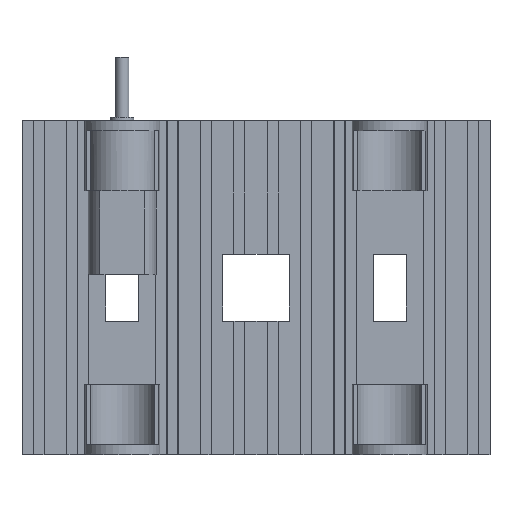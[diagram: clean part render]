
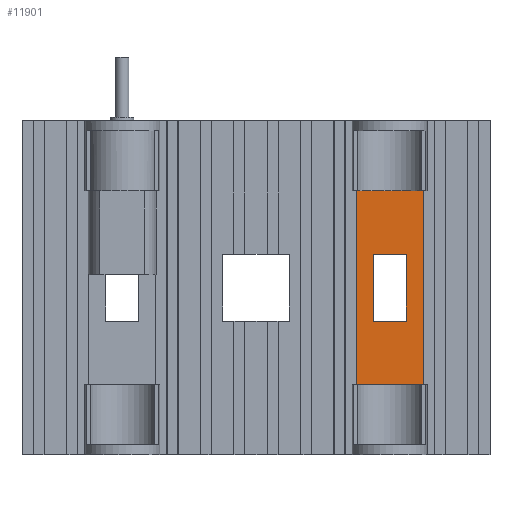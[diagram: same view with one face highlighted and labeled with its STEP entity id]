
A CAD part, front view. The second image highlights one B-rep face of the part: STEP entity #11901.
In plain terms, the highlighted planar face has unit normal (0, -1, 0).
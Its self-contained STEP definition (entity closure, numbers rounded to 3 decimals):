
#95=FACE_BOUND('',#1613,.T.);
#467=PLANE('',#12591);
#992=FACE_OUTER_BOUND('',#1612,.T.);
#1612=EDGE_LOOP('',(#10346,#10347,#10348,#10349,#10350,#10351,#10352,#10353,
#10354,#10355,#10356,#10357));
#1613=EDGE_LOOP('',(#10358,#10359,#10360,#10361));
#2805=LINE('',#17951,#4354);
#2850=LINE('',#18044,#4399);
#2853=LINE('',#18056,#4402);
#2854=LINE('',#18059,#4403);
#2871=LINE('',#18125,#4420);
#2885=LINE('',#18153,#4434);
#2889=LINE('',#18158,#4438);
#2941=LINE('',#18265,#4490);
#2965=LINE('',#18313,#4514);
#2966=LINE('',#18315,#4515);
#2967=LINE('',#18317,#4516);
#2968=LINE('',#18319,#4517);
#2969=LINE('',#18321,#4518);
#2970=LINE('',#18322,#4519);
#2971=LINE('',#18323,#4520);
#2972=LINE('',#18324,#4521);
#4354=VECTOR('',#14618,10.);
#4399=VECTOR('',#14695,10.);
#4402=VECTOR('',#14706,10.);
#4403=VECTOR('',#14709,10.);
#4420=VECTOR('',#14782,10.);
#4434=VECTOR('',#14798,10.);
#4438=VECTOR('',#14804,10.);
#4490=VECTOR('',#14902,10.);
#4514=VECTOR('',#14942,10.);
#4515=VECTOR('',#14943,10.);
#4516=VECTOR('',#14944,10.);
#4517=VECTOR('',#14945,10.);
#4518=VECTOR('',#14946,10.);
#4519=VECTOR('',#14947,10.);
#4520=VECTOR('',#14948,10.);
#4521=VECTOR('',#14949,10.);
#5846=VERTEX_POINT('',#17948);
#5847=VERTEX_POINT('',#17950);
#5878=VERTEX_POINT('',#18042);
#5879=VERTEX_POINT('',#18043);
#5884=VERTEX_POINT('',#18055);
#5885=VERTEX_POINT('',#18057);
#5906=VERTEX_POINT('',#18124);
#5919=VERTEX_POINT('',#18151);
#5950=VERTEX_POINT('',#18263);
#5951=VERTEX_POINT('',#18264);
#5966=VERTEX_POINT('',#18311);
#5967=VERTEX_POINT('',#18312);
#5968=VERTEX_POINT('',#18314);
#5969=VERTEX_POINT('',#18316);
#5970=VERTEX_POINT('',#18318);
#5971=VERTEX_POINT('',#18320);
#7329=EDGE_CURVE('',#5846,#5847,#2805,.T.);
#7374=EDGE_CURVE('',#5878,#5879,#2850,.T.);
#7380=EDGE_CURVE('',#5884,#5878,#2853,.T.);
#7382=EDGE_CURVE('',#5879,#5885,#2854,.T.);
#7415=EDGE_CURVE('',#5906,#5847,#2871,.T.);
#7429=EDGE_CURVE('',#5919,#5846,#2885,.T.);
#7433=EDGE_CURVE('',#5919,#5906,#2889,.T.);
#7485=EDGE_CURVE('',#5950,#5951,#2941,.T.);
#7509=EDGE_CURVE('',#5966,#5967,#2965,.T.);
#7510=EDGE_CURVE('',#5967,#5968,#2966,.T.);
#7511=EDGE_CURVE('',#5969,#5968,#2967,.T.);
#7512=EDGE_CURVE('',#5970,#5969,#2968,.T.);
#7513=EDGE_CURVE('',#5971,#5970,#2969,.T.);
#7514=EDGE_CURVE('',#5971,#5950,#2970,.T.);
#7515=EDGE_CURVE('',#5884,#5951,#2971,.T.);
#7516=EDGE_CURVE('',#5966,#5885,#2972,.T.);
#10346=ORIENTED_EDGE('',*,*,#7509,.T.);
#10347=ORIENTED_EDGE('',*,*,#7510,.T.);
#10348=ORIENTED_EDGE('',*,*,#7511,.F.);
#10349=ORIENTED_EDGE('',*,*,#7512,.F.);
#10350=ORIENTED_EDGE('',*,*,#7513,.F.);
#10351=ORIENTED_EDGE('',*,*,#7514,.T.);
#10352=ORIENTED_EDGE('',*,*,#7485,.T.);
#10353=ORIENTED_EDGE('',*,*,#7515,.F.);
#10354=ORIENTED_EDGE('',*,*,#7380,.T.);
#10355=ORIENTED_EDGE('',*,*,#7374,.T.);
#10356=ORIENTED_EDGE('',*,*,#7382,.T.);
#10357=ORIENTED_EDGE('',*,*,#7516,.F.);
#10358=ORIENTED_EDGE('',*,*,#7415,.T.);
#10359=ORIENTED_EDGE('',*,*,#7329,.F.);
#10360=ORIENTED_EDGE('',*,*,#7429,.F.);
#10361=ORIENTED_EDGE('',*,*,#7433,.T.);
#11901=ADVANCED_FACE('',(#992,#95),#467,.F.);
#12591=AXIS2_PLACEMENT_3D('',#18310,#14940,#14941);
#14618=DIRECTION('',(-1.,0.,0.));
#14695=DIRECTION('',(-1.,0.,0.));
#14706=DIRECTION('',(0.,0.,-1.));
#14709=DIRECTION('',(0.,0.,1.));
#14782=DIRECTION('',(0.,0.,1.));
#14798=DIRECTION('',(0.,0.,1.));
#14804=DIRECTION('',(-1.,0.,0.));
#14902=DIRECTION('',(0.,0.,1.));
#14940=DIRECTION('center_axis',(0.,1.,0.));
#14941=DIRECTION('ref_axis',(0.,0.,1.));
#14942=DIRECTION('',(0.,0.,-1.));
#14943=DIRECTION('',(1.,0.,0.));
#14944=DIRECTION('',(0.,0.,-1.));
#14945=DIRECTION('',(-1.,0.,0.));
#14946=DIRECTION('',(0.,0.,1.));
#14947=DIRECTION('',(1.,0.,0.));
#14948=DIRECTION('',(1.,0.,0.));
#14949=DIRECTION('',(1.,0.,0.));
#17948=CARTESIAN_POINT('',(85.,10.2,-24.));
#17950=CARTESIAN_POINT('',(75.,10.2,-24.));
#17951=CARTESIAN_POINT('',(77.5,10.2,-24.));
#18042=CARTESIAN_POINT('',(84.749,10.2,-5.));
#18043=CARTESIAN_POINT('',(75.251,10.2,-5.));
#18044=CARTESIAN_POINT('',(77.5,10.2,-5.));
#18055=CARTESIAN_POINT('',(84.749,10.2,16.));
#18056=CARTESIAN_POINT('',(84.749,10.2,14.));
#18057=CARTESIAN_POINT('',(75.251,10.2,16.));
#18059=CARTESIAN_POINT('',(75.251,10.2,14.));
#18124=CARTESIAN_POINT('',(75.,10.2,-44.));
#18125=CARTESIAN_POINT('',(75.,10.2,-46.5));
#18151=CARTESIAN_POINT('',(85.,10.2,-44.));
#18153=CARTESIAN_POINT('',(85.,10.2,-21.5));
#18158=CARTESIAN_POINT('',(77.5,10.2,-44.));
#18263=CARTESIAN_POINT('',(90.,10.2,-84.));
#18264=CARTESIAN_POINT('',(90.,10.2,16.));
#18265=CARTESIAN_POINT('',(90.,10.2,-59.));
#18310=CARTESIAN_POINT('Origin',(75.,10.2,-59.));
#18311=CARTESIAN_POINT('',(70.,10.2,16.));
#18312=CARTESIAN_POINT('',(70.,10.2,-84.));
#18313=CARTESIAN_POINT('',(70.,10.2,-59.));
#18314=CARTESIAN_POINT('',(75.251,10.2,-84.));
#18315=CARTESIAN_POINT('',(75.,10.2,-84.));
#18316=CARTESIAN_POINT('',(75.251,10.2,-63.));
#18317=CARTESIAN_POINT('',(75.251,10.2,-82.));
#18318=CARTESIAN_POINT('',(84.749,10.2,-63.));
#18319=CARTESIAN_POINT('',(77.5,10.2,-63.));
#18320=CARTESIAN_POINT('',(84.749,10.2,-84.));
#18321=CARTESIAN_POINT('',(84.749,10.2,-82.));
#18322=CARTESIAN_POINT('',(75.,10.2,-84.));
#18323=CARTESIAN_POINT('',(75.,10.2,16.));
#18324=CARTESIAN_POINT('',(75.,10.2,16.));
